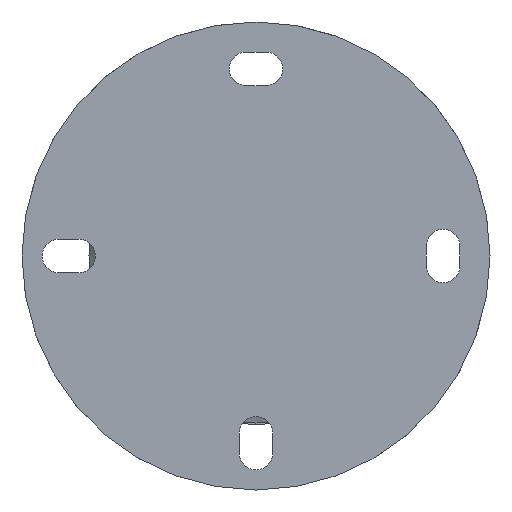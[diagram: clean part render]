
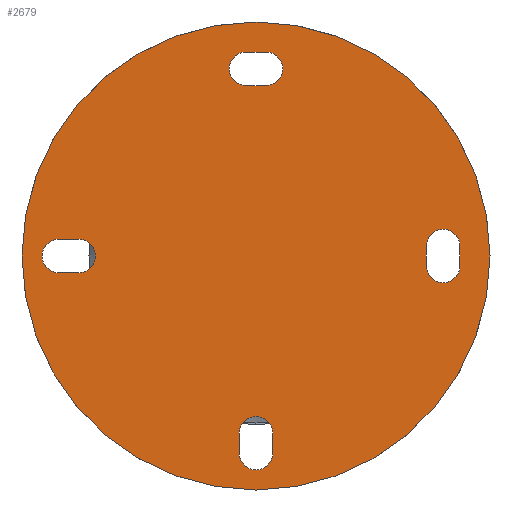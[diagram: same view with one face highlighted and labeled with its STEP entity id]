
A CAD part, front view. The second image highlights one B-rep face of the part: STEP entity #2679.
In plain terms, the highlighted planar face has unit normal (0, -1, 0).
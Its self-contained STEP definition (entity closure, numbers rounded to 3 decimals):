
#36 = CARTESIAN_POINT ( 'NONE',  ( -1.5, -20., 28. ) ) ;
#46 = EDGE_CURVE ( 'NONE', #1215, #1109, #853, .T. ) ;
#48 = ORIENTED_EDGE ( 'NONE', *, *, #2758, .F. ) ;
#91 = CIRCLE ( 'NONE', #2362, 2.5 ) ;
#128 = ORIENTED_EDGE ( 'NONE', *, *, #1378, .F. ) ;
#129 = CARTESIAN_POINT ( 'NONE',  ( 2.5, -20., -29.5 ) ) ;
#136 = VECTOR ( 'NONE', #271, 1000. ) ;
#139 = VECTOR ( 'NONE', #2607, 1000. ) ;
#205 = EDGE_CURVE ( 'NONE', #385, #2671, #1405, .T. ) ;
#233 = AXIS2_PLACEMENT_3D ( 'NONE', #2789, #2763, #1396 ) ;
#255 = DIRECTION ( 'NONE',  ( 0., 0., -1. ) ) ;
#271 = DIRECTION ( 'NONE',  ( 1., 0., 0. ) ) ;
#279 = EDGE_CURVE ( 'NONE', #1729, #1215, #501, .T. ) ;
#310 = ORIENTED_EDGE ( 'NONE', *, *, #487, .F. ) ;
#316 = CARTESIAN_POINT ( 'NONE',  ( -26.5, -20., -2.5 ) ) ;
#319 = EDGE_LOOP ( 'NONE', ( #1809, #2394, #2038, #2159 ) ) ;
#337 = EDGE_CURVE ( 'NONE', #2625, #909, #1032, .T. ) ;
#364 = AXIS2_PLACEMENT_3D ( 'NONE', #994, #2819, #547 ) ;
#385 = VERTEX_POINT ( 'NONE', #2188 ) ;
#419 = EDGE_CURVE ( 'NONE', #901, #385, #1067, .T. ) ;
#487 = EDGE_CURVE ( 'NONE', #1850, #1251, #638, .T. ) ;
#501 = CIRCLE ( 'NONE', #1641, 2.5 ) ;
#515 = DIRECTION ( 'NONE',  ( 0., -1., 0. ) ) ;
#521 = EDGE_CURVE ( 'NONE', #2047, #901, #2516, .T. ) ;
#535 = ORIENTED_EDGE ( 'NONE', *, *, #279, .F. ) ;
#547 = DIRECTION ( 'NONE',  ( 0., 0., -1. ) ) ;
#583 = DIRECTION ( 'NONE',  ( 0., 0., -1. ) ) ;
#592 = FACE_BOUND ( 'NONE', #849, .T. ) ;
#615 = CARTESIAN_POINT ( 'NONE',  ( -29.5, -20., -2.5 ) ) ;
#632 = VERTEX_POINT ( 'NONE', #2170 ) ;
#638 = CIRCLE ( 'NONE', #735, 2.5 ) ;
#643 = DIRECTION ( 'NONE',  ( 1., 0., 0. ) ) ;
#661 = EDGE_CURVE ( 'NONE', #935, #2625, #91, .T. ) ;
#705 = CARTESIAN_POINT ( 'NONE',  ( -1.5, -20., 25.5 ) ) ;
#713 = ORIENTED_EDGE ( 'NONE', *, *, #419, .F. ) ;
#714 = CARTESIAN_POINT ( 'NONE',  ( 28., -20., -1.5 ) ) ;
#728 = CIRCLE ( 'NONE', #1019, 2.5 ) ;
#735 = AXIS2_PLACEMENT_3D ( 'NONE', #714, #2529, #1790 ) ;
#774 = EDGE_LOOP ( 'NONE', ( #1752, #2582, #310, #1031 ) ) ;
#790 = ORIENTED_EDGE ( 'NONE', *, *, #46, .F. ) ;
#827 = VECTOR ( 'NONE', #643, 1000. ) ;
#833 = DIRECTION ( 'NONE',  ( 0., 0., -1. ) ) ;
#847 = EDGE_CURVE ( 'NONE', #2150, #1850, #1369, .T. ) ;
#849 = EDGE_LOOP ( 'NONE', ( #713, #854, #128, #1021 ) ) ;
#853 = LINE ( 'NONE', #1762, #827 ) ;
#854 = ORIENTED_EDGE ( 'NONE', *, *, #521, .F. ) ;
#901 = VERTEX_POINT ( 'NONE', #1544 ) ;
#909 = VERTEX_POINT ( 'NONE', #1148 ) ;
#930 = CARTESIAN_POINT ( 'NONE',  ( -29.5, -20., 2.5 ) ) ;
#935 = VERTEX_POINT ( 'NONE', #2462 ) ;
#972 = CARTESIAN_POINT ( 'NONE',  ( -29.5, -20., 0. ) ) ;
#994 = CARTESIAN_POINT ( 'NONE',  ( -26.5, -20., 0. ) ) ;
#1019 = AXIS2_PLACEMENT_3D ( 'NONE', #1837, #2302, #255 ) ;
#1021 = ORIENTED_EDGE ( 'NONE', *, *, #205, .F. ) ;
#1028 = CARTESIAN_POINT ( 'NONE',  ( 1.5, -20., 25.5 ) ) ;
#1030 = CARTESIAN_POINT ( 'NONE',  ( 1.5, -20., 30.5 ) ) ;
#1031 = ORIENTED_EDGE ( 'NONE', *, *, #847, .F. ) ;
#1032 = LINE ( 'NONE', #129, #1878 ) ;
#1042 = VERTEX_POINT ( 'NONE', #1450 ) ;
#1045 = EDGE_CURVE ( 'NONE', #909, #632, #1539, .T. ) ;
#1053 = CARTESIAN_POINT ( 'NONE',  ( 0., -20., -29.5 ) ) ;
#1067 = CIRCLE ( 'NONE', #2742, 2.5 ) ;
#1104 = CARTESIAN_POINT ( 'NONE',  ( 30.5, -20., -1.5 ) ) ;
#1109 = VERTEX_POINT ( 'NONE', #316 ) ;
#1134 = CARTESIAN_POINT ( 'NONE',  ( -26.5, -20., 2.5 ) ) ;
#1148 = CARTESIAN_POINT ( 'NONE',  ( 2.5, -20., -26.5 ) ) ;
#1168 = CIRCLE ( 'NONE', #2019, 35. ) ;
#1215 = VERTEX_POINT ( 'NONE', #615 ) ;
#1251 = VERTEX_POINT ( 'NONE', #1104 ) ;
#1262 = DIRECTION ( 'NONE',  ( 0., 0., -1. ) ) ;
#1273 = FACE_BOUND ( 'NONE', #1992, .T. ) ;
#1285 = FACE_BOUND ( 'NONE', #774, .T. ) ;
#1342 = DIRECTION ( 'NONE',  ( 0., -1., 0. ) ) ;
#1349 = AXIS2_PLACEMENT_3D ( 'NONE', #2176, #2413, #583 ) ;
#1369 = LINE ( 'NONE', #1556, #1782 ) ;
#1378 = EDGE_CURVE ( 'NONE', #2671, #2047, #728, .T. ) ;
#1396 = DIRECTION ( 'NONE',  ( 0., 0., -1. ) ) ;
#1405 = LINE ( 'NONE', #705, #136 ) ;
#1441 = ORIENTED_EDGE ( 'NONE', *, *, #1757, .F. ) ;
#1450 = CARTESIAN_POINT ( 'NONE',  ( -26.5, -20., 2.5 ) ) ;
#1505 = CARTESIAN_POINT ( 'NONE',  ( -2.5, -20., -26.5 ) ) ;
#1512 = DIRECTION ( 'NONE',  ( 0., 0., -1. ) ) ;
#1539 = CIRCLE ( 'NONE', #1349, 2.5 ) ;
#1544 = CARTESIAN_POINT ( 'NONE',  ( -1.5, -20., 30.5 ) ) ;
#1556 = CARTESIAN_POINT ( 'NONE',  ( 25.5, -20., 1.5 ) ) ;
#1641 = AXIS2_PLACEMENT_3D ( 'NONE', #972, #515, #1262 ) ;
#1642 = VERTEX_POINT ( 'NONE', #1711 ) ;
#1654 = EDGE_CURVE ( 'NONE', #1109, #1042, #2921, .T. ) ;
#1690 = LINE ( 'NONE', #1986, #139 ) ;
#1698 = CIRCLE ( 'NONE', #233, 2.5 ) ;
#1711 = CARTESIAN_POINT ( 'NONE',  ( 30.5, -20., 1.5 ) ) ;
#1729 = VERTEX_POINT ( 'NONE', #930 ) ;
#1741 = LINE ( 'NONE', #1505, #2266 ) ;
#1752 = ORIENTED_EDGE ( 'NONE', *, *, #2875, .F. ) ;
#1757 = EDGE_CURVE ( 'NONE', #1950, #1950, #1168, .T. ) ;
#1762 = CARTESIAN_POINT ( 'NONE',  ( -29.5, -20., -2.5 ) ) ;
#1782 = VECTOR ( 'NONE', #2283, 1000. ) ;
#1790 = DIRECTION ( 'NONE',  ( 0., 0., -1. ) ) ;
#1797 = ORIENTED_EDGE ( 'NONE', *, *, #1654, .F. ) ;
#1809 = ORIENTED_EDGE ( 'NONE', *, *, #661, .F. ) ;
#1837 = CARTESIAN_POINT ( 'NONE',  ( 1.5, -20., 28. ) ) ;
#1850 = VERTEX_POINT ( 'NONE', #2499 ) ;
#1878 = VECTOR ( 'NONE', #2783, 1000. ) ;
#1939 = FACE_BOUND ( 'NONE', #319, .T. ) ;
#1950 = VERTEX_POINT ( 'NONE', #2421 ) ;
#1952 = DIRECTION ( 'NONE',  ( 0., 0., -1. ) ) ;
#1962 = DIRECTION ( 'NONE',  ( 0., 1., 0. ) ) ;
#1967 = DIRECTION ( 'NONE',  ( 0., -1., 0. ) ) ;
#1986 = CARTESIAN_POINT ( 'NONE',  ( 30.5, -20., -1.5 ) ) ;
#1992 = EDGE_LOOP ( 'NONE', ( #535, #48, #1797, #790 ) ) ;
#2015 = EDGE_CURVE ( 'NONE', #1251, #1642, #1690, .T. ) ;
#2019 = AXIS2_PLACEMENT_3D ( 'NONE', #2243, #1962, #1512 ) ;
#2024 = VECTOR ( 'NONE', #2768, 1000. ) ;
#2038 = ORIENTED_EDGE ( 'NONE', *, *, #1045, .F. ) ;
#2047 = VERTEX_POINT ( 'NONE', #1030 ) ;
#2078 = VECTOR ( 'NONE', #2250, 1000. ) ;
#2150 = VERTEX_POINT ( 'NONE', #2866 ) ;
#2155 = CARTESIAN_POINT ( 'NONE',  ( 2.5, -20., -29.5 ) ) ;
#2159 = ORIENTED_EDGE ( 'NONE', *, *, #337, .F. ) ;
#2170 = CARTESIAN_POINT ( 'NONE',  ( -2.5, -20., -26.5 ) ) ;
#2176 = CARTESIAN_POINT ( 'NONE',  ( 0., -20., -26.5 ) ) ;
#2178 = AXIS2_PLACEMENT_3D ( 'NONE', #2877, #2405, #1952 ) ;
#2188 = CARTESIAN_POINT ( 'NONE',  ( -1.5, -20., 25.5 ) ) ;
#2243 = CARTESIAN_POINT ( 'NONE',  ( 0., -20., 0. ) ) ;
#2250 = DIRECTION ( 'NONE',  ( -1., 0., 0. ) ) ;
#2266 = VECTOR ( 'NONE', #2635, 1000. ) ;
#2283 = DIRECTION ( 'NONE',  ( 0., 0., -1. ) ) ;
#2302 = DIRECTION ( 'NONE',  ( 0., -1., 0. ) ) ;
#2352 = EDGE_LOOP ( 'NONE', ( #1441 ) ) ;
#2362 = AXIS2_PLACEMENT_3D ( 'NONE', #1053, #1967, #833 ) ;
#2394 = ORIENTED_EDGE ( 'NONE', *, *, #2573, .F. ) ;
#2405 = DIRECTION ( 'NONE',  ( 0., -1., 0. ) ) ;
#2413 = DIRECTION ( 'NONE',  ( 0., -1., 0. ) ) ;
#2421 = CARTESIAN_POINT ( 'NONE',  ( 0., -20., -35. ) ) ;
#2462 = CARTESIAN_POINT ( 'NONE',  ( -2.5, -20., -29.5 ) ) ;
#2499 = CARTESIAN_POINT ( 'NONE',  ( 25.5, -20., -1.5 ) ) ;
#2516 = LINE ( 'NONE', #2723, #2024 ) ;
#2529 = DIRECTION ( 'NONE',  ( 0., -1., 0. ) ) ;
#2543 = DIRECTION ( 'NONE',  ( 0., 0., -1. ) ) ;
#2573 = EDGE_CURVE ( 'NONE', #632, #935, #1741, .T. ) ;
#2582 = ORIENTED_EDGE ( 'NONE', *, *, #2015, .F. ) ;
#2607 = DIRECTION ( 'NONE',  ( 0., 0., 1. ) ) ;
#2625 = VERTEX_POINT ( 'NONE', #2155 ) ;
#2635 = DIRECTION ( 'NONE',  ( 0., 0., -1. ) ) ;
#2671 = VERTEX_POINT ( 'NONE', #1028 ) ;
#2673 = LINE ( 'NONE', #1134, #2078 ) ;
#2679 = ADVANCED_FACE ( 'NONE', ( #2823, #1285, #592, #1273, #1939 ), #2853, .T. ) ;
#2723 = CARTESIAN_POINT ( 'NONE',  ( 1.5, -20., 30.5 ) ) ;
#2742 = AXIS2_PLACEMENT_3D ( 'NONE', #36, #1342, #2543 ) ;
#2758 = EDGE_CURVE ( 'NONE', #1042, #1729, #2673, .T. ) ;
#2763 = DIRECTION ( 'NONE',  ( 0., -1., 0. ) ) ;
#2768 = DIRECTION ( 'NONE',  ( -1., 0., 0. ) ) ;
#2783 = DIRECTION ( 'NONE',  ( 0., 0., 1. ) ) ;
#2789 = CARTESIAN_POINT ( 'NONE',  ( 28., -20., 1.5 ) ) ;
#2819 = DIRECTION ( 'NONE',  ( 0., -1., 0. ) ) ;
#2823 = FACE_OUTER_BOUND ( 'NONE', #2352, .T. ) ;
#2853 = PLANE ( 'NONE',  #2178 ) ;
#2866 = CARTESIAN_POINT ( 'NONE',  ( 25.5, -20., 1.5 ) ) ;
#2875 = EDGE_CURVE ( 'NONE', #1642, #2150, #1698, .T. ) ;
#2877 = CARTESIAN_POINT ( 'NONE',  ( 0., -20., 0. ) ) ;
#2921 = CIRCLE ( 'NONE', #364, 2.5 ) ;
